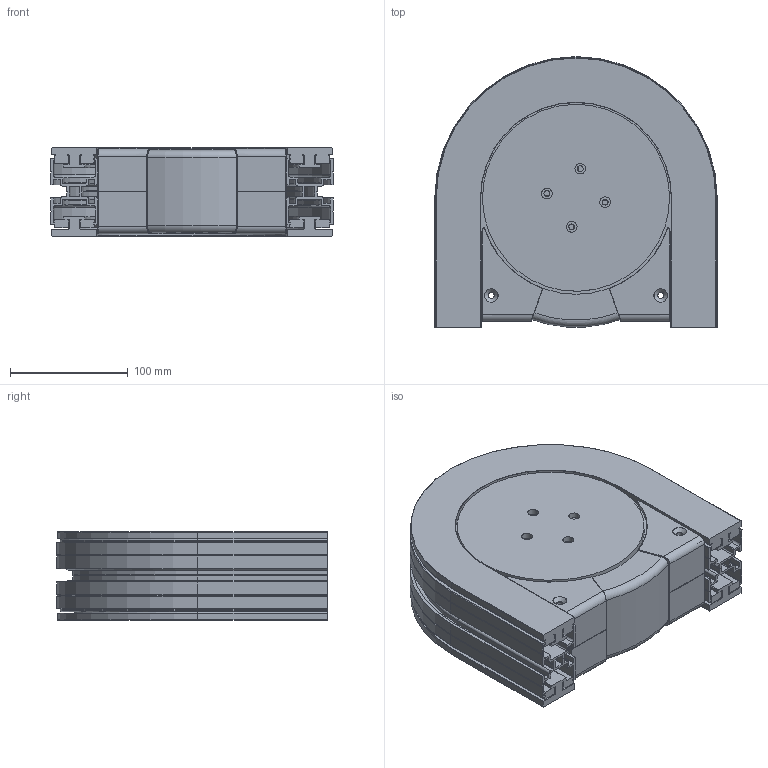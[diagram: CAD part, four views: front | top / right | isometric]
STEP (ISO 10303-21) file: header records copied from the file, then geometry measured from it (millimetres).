
FILE_DESCRIPTION((''),'2;1');
FILE_NAME('E:\Vault\Projekt\S380\3D S380\Serie 380\380-5020.stp','2010-11-30T15:57:18',('Per'),(''),'Autodesk Inventor 2011','Autodesk Inventor 2011','');
FILE_SCHEMA(('AUTOMOTIVE_DESIGN { 1 0 10303 214 1 1 1 1 }'));
Length unit declared in the file: millimetre
Products named in the file (1): 380-5020
Bounding box: 240 x 230 x 75 mm (x, y, z)
Volume: 1358556.2 mm3; surface area: 551041.8 mm2
Topology: 1 solids, 1 shells, 1063 faces, 2640 edges, 1479 vertices
Faces by surface type: cylinder 466, plane 305, torus 164, sphere 96, cone 16, bspline 16
Full cylindrical faces by diameter (mm): 5 x8, 5.2 x4, 9 x8, 25 x2, 38 x2, 159 x2
Entity records: 31832 total; most frequent: CARTESIAN_POINT 6113, DIRECTION 5702, ORIENTED_EDGE 4992, EDGE_CURVE 2496, AXIS2_PLACEMENT_3D 2220, VERTEX_POINT 1473, VECTOR 1262, LINE 1262
